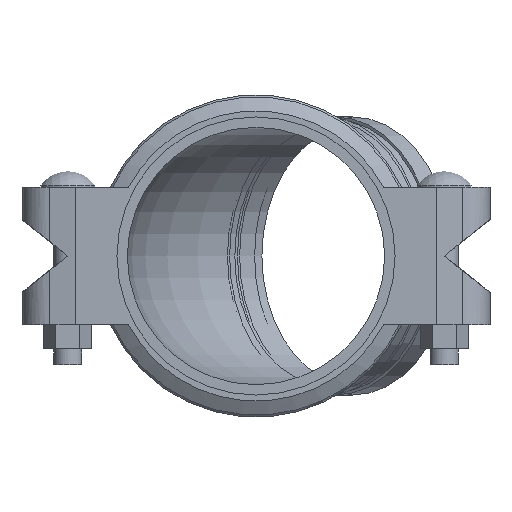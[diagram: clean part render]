
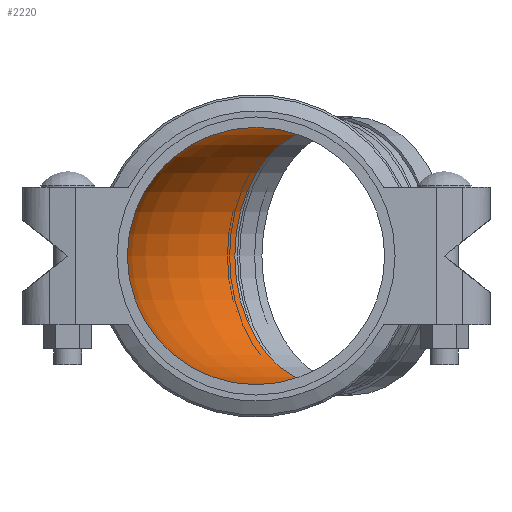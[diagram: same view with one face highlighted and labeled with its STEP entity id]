
A CAD part, left-side view. The second image highlights one B-rep face of the part: STEP entity #2220.
In plain terms, the highlighted toroidal (fillet/blend) face has major radius 187.765 mm and minor radius 101.359 mm.
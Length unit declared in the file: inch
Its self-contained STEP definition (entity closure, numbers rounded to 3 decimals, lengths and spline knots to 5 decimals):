
#70=TOROIDAL_SURFACE('',#2450,7.39232,3.9905);
#479=FACE_OUTER_BOUND('',#600,.T.);
#600=EDGE_LOOP('',(#1410,#1411,#1412,#1413,#1414,#1415));
#743=CIRCLE('',#2451,3.9905);
#744=CIRCLE('',#2452,3.9905);
#745=CIRCLE('',#2453,3.40182);
#746=CIRCLE('',#2454,3.9905);
#747=CIRCLE('',#2455,3.9905);
#863=VERTEX_POINT('',#3416);
#864=VERTEX_POINT('',#3417);
#865=VERTEX_POINT('',#3420);
#866=VERTEX_POINT('',#3422);
#1079=EDGE_CURVE('',#863,#864,#743,.T.);
#1080=EDGE_CURVE('',#864,#863,#744,.T.);
#1081=EDGE_CURVE('',#863,#865,#745,.T.);
#1082=EDGE_CURVE('',#865,#866,#746,.T.);
#1083=EDGE_CURVE('',#866,#865,#747,.T.);
#1410=ORIENTED_EDGE('',*,*,#1079,.T.);
#1411=ORIENTED_EDGE('',*,*,#1080,.T.);
#1412=ORIENTED_EDGE('',*,*,#1081,.T.);
#1413=ORIENTED_EDGE('',*,*,#1082,.T.);
#1414=ORIENTED_EDGE('',*,*,#1083,.T.);
#1415=ORIENTED_EDGE('',*,*,#1081,.F.);
#2220=ADVANCED_FACE('',(#479),#70,.F.);
#2450=AXIS2_PLACEMENT_3D('',#3415,#2734,#2735);
#2451=AXIS2_PLACEMENT_3D('',#3418,#2736,#2737);
#2452=AXIS2_PLACEMENT_3D('',#3419,#2738,#2739);
#2453=AXIS2_PLACEMENT_3D('',#3421,#2740,#2741);
#2454=AXIS2_PLACEMENT_3D('',#3423,#2742,#2743);
#2455=AXIS2_PLACEMENT_3D('',#3424,#2744,#2745);
#2734=DIRECTION('center_axis',(0.,0.,-1.));
#2735=DIRECTION('ref_axis',(-1.,0.,0.));
#2736=DIRECTION('center_axis',(0.,-1.,0.));
#2737=DIRECTION('ref_axis',(1.,0.,0.));
#2738=DIRECTION('center_axis',(0.,-1.,0.));
#2739=DIRECTION('ref_axis',(1.,0.,0.));
#2740=DIRECTION('center_axis',(0.,0.,-1.));
#2741=DIRECTION('ref_axis',(-1.,0.,0.));
#2742=DIRECTION('center_axis',(0.707,0.707,0.));
#2743=DIRECTION('ref_axis',(0.707,-0.707,0.));
#2744=DIRECTION('center_axis',(0.707,0.707,0.));
#2745=DIRECTION('ref_axis',(0.707,-0.707,0.));
#3415=CARTESIAN_POINT('Origin',(7.39232,1.188,0.));
#3416=CARTESIAN_POINT('',(3.9905,1.188,0.));
#3417=CARTESIAN_POINT('',(-3.9905,1.188,0.));
#3418=CARTESIAN_POINT('Origin',(0.,1.188,0.));
#3419=CARTESIAN_POINT('Origin',(0.,1.188,0.));
#3420=CARTESIAN_POINT('',(4.98687,3.59345,0.));
#3421=CARTESIAN_POINT('Origin',(7.39232,1.188,0.));
#3422=CARTESIAN_POINT('',(-0.65655,9.23687,0.));
#3423=CARTESIAN_POINT('Origin',(2.16516,6.41516,0.));
#3424=CARTESIAN_POINT('Origin',(2.16516,6.41516,0.));
